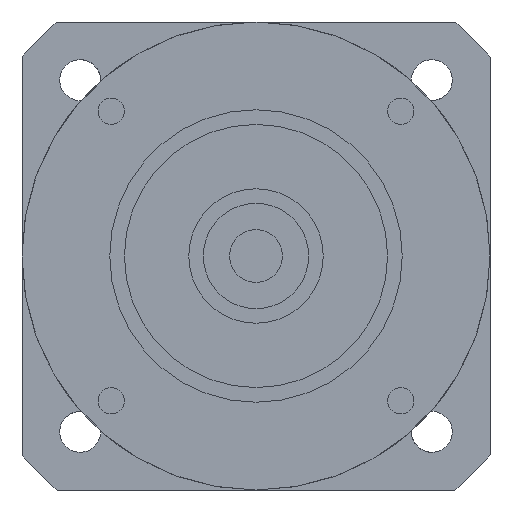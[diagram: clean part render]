
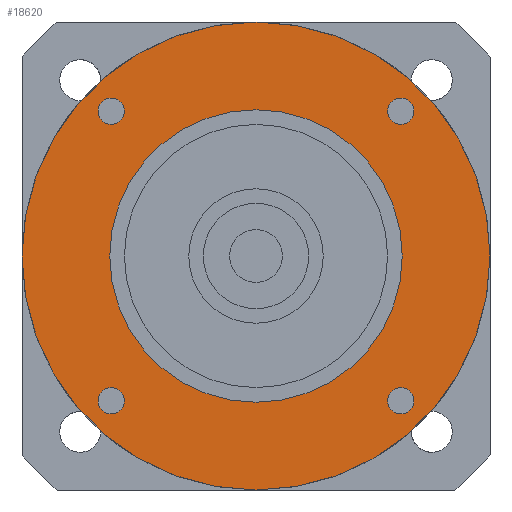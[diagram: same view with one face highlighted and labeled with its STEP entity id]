
A CAD part, left-side view. The second image highlights one B-rep face of the part: STEP entity #18620.
In plain terms, the highlighted planar face has unit normal (-1, 0, 0) as drawn and (0, 0, -1) by its records, which use the part's own axes.
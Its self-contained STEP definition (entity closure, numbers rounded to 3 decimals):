
#17440=CARTESIAN_POINT('',(-40.,0.,-47.));
#17450=VERTEX_POINT('',#17440);
#17540=CARTESIAN_POINT('',(40.,0.,-47.));
#17550=VERTEX_POINT('',#17540);
#17580=CARTESIAN_POINT('',(0.,0.,
-47.));
#17590=DIRECTION('',(0.,0.,1.));
#17600=DIRECTION('',(1.,0.,0.));
#17610=AXIS2_PLACEMENT_3D('',#17580,#17590,#17600);
#17620=CIRCLE('',#17610,40.);
#17630=CARTESIAN_POINT('',(0.,-40.,-47.));
#17640=VERTEX_POINT('',#17630);
#17650=EDGE_CURVE('',#17640,#17550,#17620,.T.);
#17670=EDGE_CURVE('',#17450,#17640,#17620,.T.);
#17720=CARTESIAN_POINT('',(0.,0.,
-47.));
#17730=DIRECTION('',(0.,0.,-1.));
#17740=DIRECTION('',(1.,0.,0.));
#17750=AXIS2_PLACEMENT_3D('',#17720,#17730,#17740);
#17760=PLANE('',#17750);
#17770=CARTESIAN_POINT('',(24.749,-24.749,-47.));
#17780=DIRECTION('',(0.,0.,-1.));
#17790=DIRECTION('',(1.,0.,0.));
#17800=AXIS2_PLACEMENT_3D('',#17770,#17780,#17790);
#17810=CIRCLE('',#17800,2.25);
#17820=CARTESIAN_POINT('',(26.999,-24.749,-47.));
#17830=VERTEX_POINT('',#17820);
#17840=CARTESIAN_POINT('',(22.499,-24.749,-47.));
#17850=VERTEX_POINT('',#17840);
#17860=EDGE_CURVE('',#17830,#17850,#17810,.T.);
#17870=ORIENTED_EDGE('',*,*,#17860,.F.);
#17880=EDGE_CURVE('',#17850,#17830,#17810,.T.);
#17890=ORIENTED_EDGE('',*,*,#17880,.F.);
#17900=EDGE_LOOP('',(#17890,#17870));
#17910=FACE_BOUND('',#17900,.T.);
#17920=ORIENTED_EDGE('',*,*,#17650,.F.);
#17930=EDGE_CURVE('',#17550,#17450,#17620,.T.);
#17940=ORIENTED_EDGE('',*,*,#17930,.F.);
#17950=ORIENTED_EDGE('',*,*,#17670,.F.);
#17960=EDGE_LOOP('',(#17950,#17940,#17920));
#17970=FACE_OUTER_BOUND('',#17960,.T.);
#17980=CARTESIAN_POINT('',(24.749,24.749,-47.));
#17990=DIRECTION('',(0.,0.,-1.));
#18000=DIRECTION('',(0.,1.,0.));
#18010=AXIS2_PLACEMENT_3D('',#17980,#17990,#18000);
#18020=CIRCLE('',#18010,2.25);
#18030=CARTESIAN_POINT('',(24.749,26.999,-47.));
#18040=VERTEX_POINT('',#18030);
#18050=CARTESIAN_POINT('',(24.749,22.499,-47.));
#18060=VERTEX_POINT('',#18050);
#18070=EDGE_CURVE('',#18040,#18060,#18020,.T.);
#18080=ORIENTED_EDGE('',*,*,#18070,.F.);
#18090=EDGE_CURVE('',#18060,#18040,#18020,.T.);
#18100=ORIENTED_EDGE('',*,*,#18090,.F.);
#18110=EDGE_LOOP('',(#18100,#18080));
#18120=FACE_BOUND('',#18110,.T.);
#18130=CARTESIAN_POINT('',(-24.749,24.749,-47.));
#18140=DIRECTION('',(0.,0.,-1.));
#18150=DIRECTION('',(-1.,0.,0.));
#18160=AXIS2_PLACEMENT_3D('',#18130,#18140,#18150);
#18170=CIRCLE('',#18160,2.25);
#18180=CARTESIAN_POINT('',(-26.999,24.749,-47.));
#18190=VERTEX_POINT('',#18180);
#18200=CARTESIAN_POINT('',(-22.499,24.749,-47.));
#18210=VERTEX_POINT('',#18200);
#18220=EDGE_CURVE('',#18190,#18210,#18170,.T.);
#18230=ORIENTED_EDGE('',*,*,#18220,.F.);
#18240=EDGE_CURVE('',#18210,#18190,#18170,.T.);
#18250=ORIENTED_EDGE('',*,*,#18240,.F.);
#18260=EDGE_LOOP('',(#18250,#18230));
#18270=FACE_BOUND('',#18260,.T.);
#18280=CARTESIAN_POINT('',(-24.749,-24.749,-47.));
#18290=DIRECTION('',(0.,0.,-1.));
#18300=DIRECTION('',(0.,-1.,0.));
#18310=AXIS2_PLACEMENT_3D('',#18280,#18290,#18300);
#18320=CIRCLE('',#18310,2.25);
#18330=CARTESIAN_POINT('',(-24.749,-26.999,-47.));
#18340=VERTEX_POINT('',#18330);
#18350=CARTESIAN_POINT('',(-24.749,-22.499,-47.));
#18360=VERTEX_POINT('',#18350);
#18370=EDGE_CURVE('',#18340,#18360,#18320,.T.);
#18380=ORIENTED_EDGE('',*,*,#18370,.F.);
#18390=EDGE_CURVE('',#18360,#18340,#18320,.T.);
#18400=ORIENTED_EDGE('',*,*,#18390,.F.);
#18410=EDGE_LOOP('',(#18400,#18380));
#18420=FACE_BOUND('',#18410,.T.);
#18430=CARTESIAN_POINT('',(0.,0.,
-47.));
#18440=DIRECTION('',(0.,0.,1.));
#18450=DIRECTION('',(0.,1.,0.));
#18460=AXIS2_PLACEMENT_3D('',#18430,#18440,#18450);
#18470=CIRCLE('',#18460,25.);
#18480=CARTESIAN_POINT('',(-25.,0.,-47.));
#18490=VERTEX_POINT('',#18480);
#18500=CARTESIAN_POINT('',(25.,0.,-47.));
#18510=VERTEX_POINT('',#18500);
#18520=EDGE_CURVE('',#18490,#18510,#18470,.T.);
#18530=ORIENTED_EDGE('',*,*,#18520,.T.);
#18540=CARTESIAN_POINT('',(0.,25.,-47.));
#18550=VERTEX_POINT('',#18540);
#18560=EDGE_CURVE('',#18550,#18490,#18470,.T.);
#18570=ORIENTED_EDGE('',*,*,#18560,.T.);
#18580=EDGE_CURVE('',#18510,#18550,#18470,.T.);
#18590=ORIENTED_EDGE('',*,*,#18580,.T.);
#18600=EDGE_LOOP('',(#18590,#18570,#18530));
#18610=FACE_BOUND('',#18600,.T.);
#18620=ADVANCED_FACE('',(#17910,#17970,#18120,#18270,#18420,#18610),
#17760,.T.);
